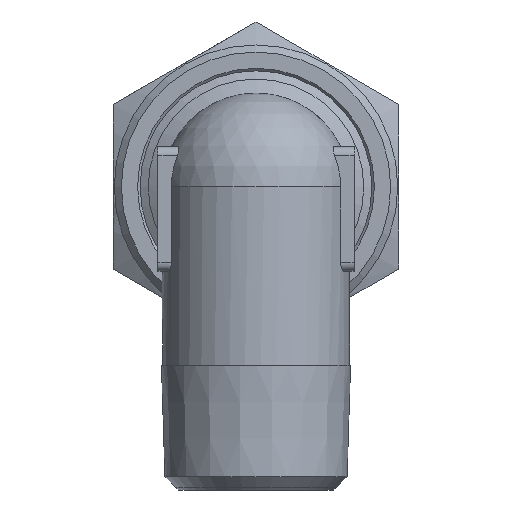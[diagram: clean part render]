
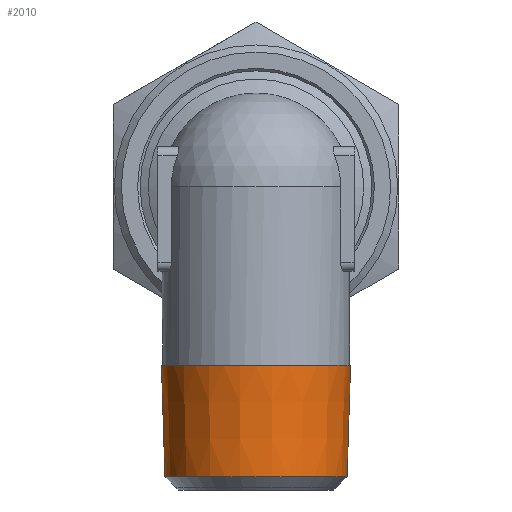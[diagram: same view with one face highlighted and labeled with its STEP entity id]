
A CAD part, left-side view. The second image highlights one B-rep face of the part: STEP entity #2010.
In plain terms, the highlighted conical face has half-angle 1.79 degrees and reference radius 10.602 mm.
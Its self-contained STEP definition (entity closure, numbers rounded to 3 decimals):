
#2010=ADVANCED_FACE('', (#2020,#2030), #2040, .T.);
#7180=AXIS2_PLACEMENT_3D('Ax2Pl3d', #7190, #7200, #7210);
#7260=AXIS2_PLACEMENT_3D('Ax2Pl3d', #7270, #7280, #7290);
#7300=AXIS2_PLACEMENT_3D('Ax2Pl3d', #7310, #7320, #7330);
#7190=CARTESIAN_POINT('HicPkt', (24.041,31.079,10.581));
#41400=CARTESIAN_POINT('', (24.041,20.867,10.581));
#7270=CARTESIAN_POINT('HicPkt', (24.041,31.079,23.081));
#7310=CARTESIAN_POINT('HicPkt', (24.041,31.079,23.081));
#41420=CARTESIAN_POINT('', (24.041,20.476,23.081));
#42220=CIRCLE('Circle', #7180, 10.212);
#42240=CIRCLE('Circle', #7300, 10.603);
#2040=CONICAL_SURFACE('Kegel', #7260, 10.603, 
0.031);
#7200=DIRECTION('Axis', (0.,0.,-1.));
#7210=DIRECTION('RefDirection', (-1.,-0.,0.));
#7280=DIRECTION('Axis', (0.,0.,1.));
#7290=DIRECTION('RefDirection', (1.,0.,-0.));
#7320=DIRECTION('Axis', (0.,0.,-1.));
#7330=DIRECTION('RefDirection', (-1.,-0.,0.));
#49850=EDGE_CURVE('', #49860, #49860, #42220, .T.);
#49890=EDGE_CURVE('', #49900, #49900, #42240, .T.);
#53760=EDGE_LOOP('Edge_loop', (#53770));
#53780=EDGE_LOOP('Edge_loop', (#53790));
#2030=FACE_BOUND('', #53780, .T.);
#2020=FACE_OUTER_BOUND('Face_outer_bound', #53760, .T.);
#53770=ORIENTED_EDGE('', *, *, #49850, .F.);
#53790=ORIENTED_EDGE('', *, *, #49890, .T.);
#49860=VERTEX_POINT('', #41400);
#49900=VERTEX_POINT('', #41420);
